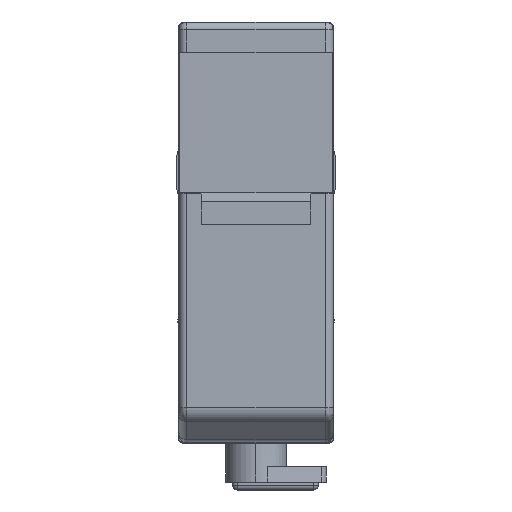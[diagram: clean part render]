
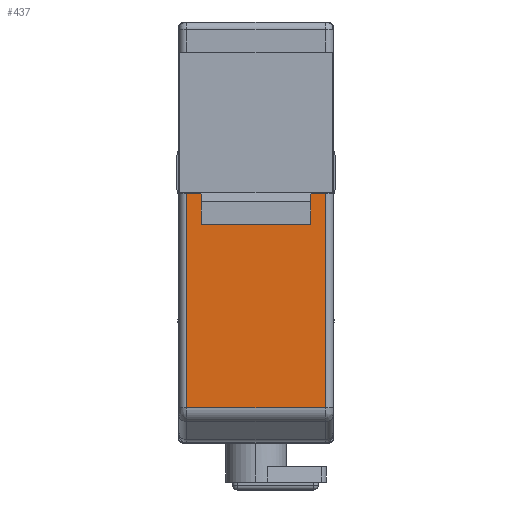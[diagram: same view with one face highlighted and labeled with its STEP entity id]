
A CAD part, top view. The second image highlights one B-rep face of the part: STEP entity #437.
In plain terms, the highlighted planar face has unit normal (0, 0, 1).
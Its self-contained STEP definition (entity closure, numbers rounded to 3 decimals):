
#437=ADVANCED_FACE('',(#1996),#1995,.F.);
#1995=PLANE('',#4394);
#1996=FACE_OUTER_BOUND('',#4395,.T.);
#4391=CARTESIAN_POINT('',(5.34,-26.283,27.4));
#4392=DIRECTION('',(0.,0.,-1.));
#4393=DIRECTION('',(-1.,0.,0.));
#4394=AXIS2_PLACEMENT_3D('',#4391,#4392,#4393);
#4395=EDGE_LOOP('',(#5955,#5956,#5957,#5958,#5959,#5960,#5961,#5962));
#5955=ORIENTED_EDGE('',*,*,#7102,.F.);
#5956=ORIENTED_EDGE('',*,*,#7109,.T.);
#5957=ORIENTED_EDGE('',*,*,#7110,.T.);
#5958=ORIENTED_EDGE('',*,*,#7111,.T.);
#5959=ORIENTED_EDGE('',*,*,#7094,.F.);
#5960=ORIENTED_EDGE('',*,*,#7030,.F.);
#5961=ORIENTED_EDGE('',*,*,#7039,.F.);
#5962=ORIENTED_EDGE('',*,*,#7032,.T.);
#7030=EDGE_CURVE('',#9390,#9375,#9397,.T.);
#7032=EDGE_CURVE('',#9411,#9404,#9412,.T.);
#7039=EDGE_CURVE('',#9411,#9390,#9457,.T.);
#7094=EDGE_CURVE('',#9375,#9827,#9828,.T.);
#7102=EDGE_CURVE('',#9874,#9404,#9881,.T.);
#7109=EDGE_CURVE('',#9874,#9927,#9928,.T.);
#7110=EDGE_CURVE('',#9927,#9934,#9935,.T.);
#7111=EDGE_CURVE('',#9934,#9827,#9941,.T.);
#9375=VERTEX_POINT('',#13507);
#9390=VERTEX_POINT('',#13516);
#9397=LINE('',#13520,#13521);
#9404=VERTEX_POINT('',#13524);
#9411=VERTEX_POINT('',#13528);
#9412=LINE('',#13529,#13530);
#9457=LINE('',#13553,#13554);
#9827=VERTEX_POINT('',#13762);
#9828=LINE('',#13763,#13764);
#9874=VERTEX_POINT('',#13789);
#9881=LINE('',#13794,#13795);
#9927=VERTEX_POINT('',#13819);
#9928=LINE('',#13820,#13821);
#9934=VERTEX_POINT('',#13823);
#9935=LINE('',#13824,#13825);
#9941=LINE('',#13827,#13828);
#13507=CARTESIAN_POINT('',(4.,-11.,27.4));
#13516=CARTESIAN_POINT('',(4.,-9.5,27.4));
#13520=CARTESIAN_POINT('',(4.,-9.5,27.4));
#13521=VECTOR('',#13522,1.5);
#13522=DIRECTION('',(0.,-1.,0.));
#13524=CARTESIAN_POINT('',(-4.,-11.,27.4));
#13528=CARTESIAN_POINT('',(-4.,-9.5,27.4));
#13529=CARTESIAN_POINT('',(-4.,-9.5,27.4));
#13530=VECTOR('',#13531,1.5);
#13531=DIRECTION('',(0.,-1.,0.));
#13553=CARTESIAN_POINT('',(-4.,-9.5,27.4));
#13554=VECTOR('',#13555,8.);
#13555=DIRECTION('',(1.,0.,0.));
#13762=CARTESIAN_POINT('',(4.45,-11.,27.4));
#13763=CARTESIAN_POINT('',(4.,-11.,27.4));
#13764=VECTOR('',#13765,0.45);
#13765=DIRECTION('',(1.,0.,0.));
#13789=CARTESIAN_POINT('',(-4.45,-11.,27.4));
#13794=CARTESIAN_POINT('',(-4.45,-11.,27.4));
#13795=VECTOR('',#13796,0.45);
#13796=DIRECTION('',(1.,0.,0.));
#13819=CARTESIAN_POINT('',(-4.45,-24.758,27.4));
#13820=CARTESIAN_POINT('',(-4.45,-11.,27.4));
#13821=VECTOR('',#13822,13.758);
#13822=DIRECTION('',(0.,-1.,0.));
#13823=CARTESIAN_POINT('',(4.45,-24.758,27.4));
#13824=CARTESIAN_POINT('',(-4.45,-24.758,27.4));
#13825=VECTOR('',#13826,8.9);
#13826=DIRECTION('',(1.,0.,0.));
#13827=CARTESIAN_POINT('',(4.45,-24.758,27.4));
#13828=VECTOR('',#13829,13.758);
#13829=DIRECTION('',(0.,1.,0.));
